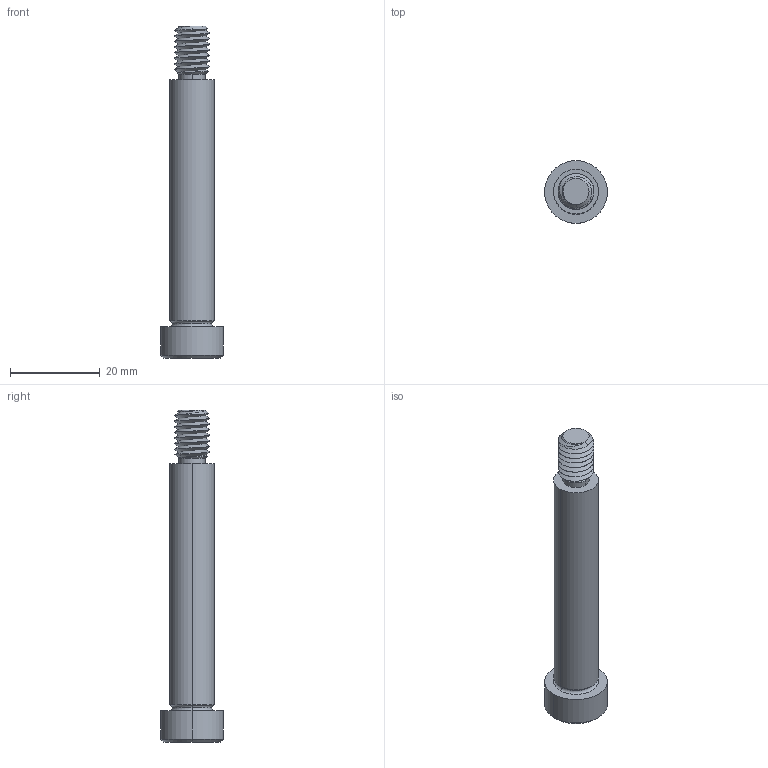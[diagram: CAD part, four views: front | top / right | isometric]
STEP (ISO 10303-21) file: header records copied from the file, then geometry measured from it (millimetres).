
FILE_DESCRIPTION (( 'STEP AP203' ), '1' );
FILE_NAME ('P0130.100-055-B8.step', '2021-11-09T21:56:45', ( '' ), ( '' ), 'SwSTEP 2.0', 'SolidWorks 2019', '' );
FILE_SCHEMA (( 'CONFIG_CONTROL_DESIGN' ));
Length unit declared in the file: millimetre
Products named in the file (1): P0130.100-055-B8
Bounding box: 14 x 14 x 74 mm (x, y, z)
Volume: 5687.2 mm3; surface area: 2905.8 mm2
Topology: 1 solids, 1 shells, 58 faces, 136 edges, 81 vertices
Faces by surface type: cylinder 21, plane 16, cone 15, torus 4, bspline 2
Entity records: 4214 total; most frequent: CARTESIAN_POINT 2911, ORIENTED_EDGE 268, DIRECTION 241, EDGE_CURVE 134, AXIS2_PLACEMENT_3D 97, VERTEX_POINT 81, EDGE_LOOP 61, ADVANCED_FACE 58
